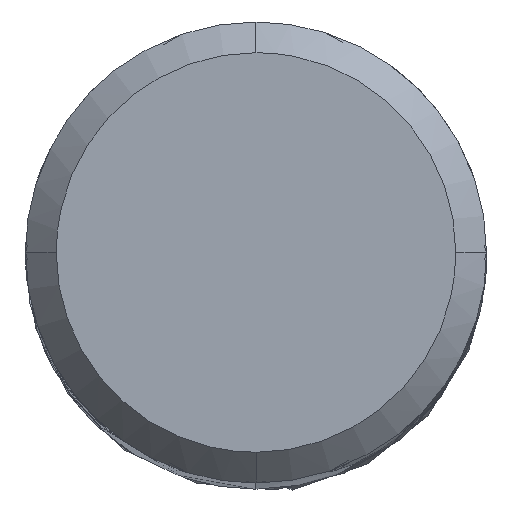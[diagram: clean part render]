
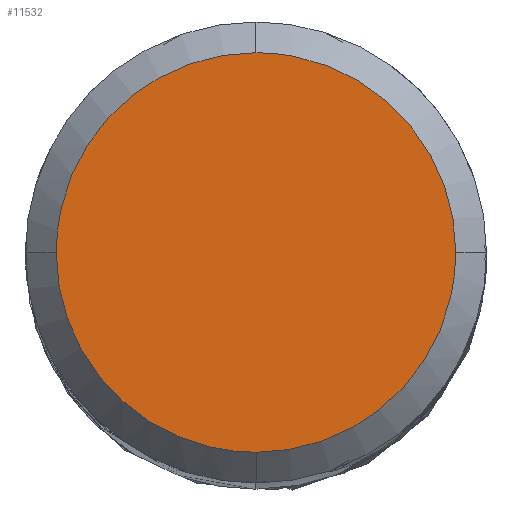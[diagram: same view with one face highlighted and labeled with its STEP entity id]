
A CAD part, top view. The second image highlights one B-rep face of the part: STEP entity #11532.
In plain terms, the highlighted planar face has unit normal (0, 0, 1).
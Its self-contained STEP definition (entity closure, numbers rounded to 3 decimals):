
#11510=AXIS2_PLACEMENT_3D('Plane Axis2P3D',#11507,#11508,#11509) ;
#7309=CARTESIAN_POINT('Vertex',(-1.3,0.,38.)) ;
#7315=CARTESIAN_POINT('Vertex',(0.,-1.3,38.)) ;
#7319=CARTESIAN_POINT('Control Point',(-1.3,0.,38.)) ;
#7320=CARTESIAN_POINT('Control Point',(-1.3,-0.158,38.)) ;
#7321=CARTESIAN_POINT('Control Point',(-1.276,-0.324,38.)) ;
#7322=CARTESIAN_POINT('Control Point',(-1.223,-0.49,38.)) ;
#7323=CARTESIAN_POINT('Control Point',(-1.057,-0.809,38.)) ;
#7324=CARTESIAN_POINT('Control Point',(-0.789,-1.058,38.)) ;
#7325=CARTESIAN_POINT('Control Point',(-0.633,-1.157,38.)) ;
#7326=CARTESIAN_POINT('Control Point',(-0.412,-1.248,38.)) ;
#7327=CARTESIAN_POINT('Control Point',(-0.189,-1.288,38.)) ;
#7328=CARTESIAN_POINT('Control Point',(-0.134,-1.295,38.)) ;
#7329=CARTESIAN_POINT('Control Point',(-0.075,-1.299,38.)) ;
#7330=CARTESIAN_POINT('Control Point',(-0.016,-1.3,38.)) ;
#7331=CARTESIAN_POINT('Control Point',(-0.011,-1.3,38.)) ;
#7332=CARTESIAN_POINT('Control Point',(-0.005,-1.3,38.)) ;
#7333=CARTESIAN_POINT('Control Point',(0.,-1.3,38.)) ;
#11417=CARTESIAN_POINT('Vertex',(0.,1.3,38.)) ;
#11421=CARTESIAN_POINT('Control Point',(0.,1.3,38.)) ;
#11422=CARTESIAN_POINT('Control Point',(-0.158,1.3,38.)) ;
#11423=CARTESIAN_POINT('Control Point',(-0.324,1.276,38.)) ;
#11424=CARTESIAN_POINT('Control Point',(-0.49,1.223,38.)) ;
#11425=CARTESIAN_POINT('Control Point',(-0.809,1.057,38.)) ;
#11426=CARTESIAN_POINT('Control Point',(-1.058,0.789,38.)) ;
#11427=CARTESIAN_POINT('Control Point',(-1.157,0.633,38.)) ;
#11428=CARTESIAN_POINT('Control Point',(-1.248,0.412,38.)) ;
#11429=CARTESIAN_POINT('Control Point',(-1.288,0.189,38.)) ;
#11430=CARTESIAN_POINT('Control Point',(-1.295,0.134,38.)) ;
#11431=CARTESIAN_POINT('Control Point',(-1.299,0.075,38.)) ;
#11432=CARTESIAN_POINT('Control Point',(-1.3,0.016,38.)) ;
#11433=CARTESIAN_POINT('Control Point',(-1.3,0.011,38.)) ;
#11434=CARTESIAN_POINT('Control Point',(-1.3,0.005,38.)) ;
#11435=CARTESIAN_POINT('Control Point',(-1.3,0.,38.)) ;
#11479=CARTESIAN_POINT('Vertex',(1.3,0.,38.)) ;
#11483=CARTESIAN_POINT('Control Point',(0.,-1.3,38.)) ;
#11484=CARTESIAN_POINT('Control Point',(0.158,-1.3,38.)) ;
#11485=CARTESIAN_POINT('Control Point',(0.324,-1.276,38.)) ;
#11486=CARTESIAN_POINT('Control Point',(0.49,-1.223,38.)) ;
#11487=CARTESIAN_POINT('Control Point',(0.809,-1.057,38.)) ;
#11488=CARTESIAN_POINT('Control Point',(1.058,-0.789,38.)) ;
#11489=CARTESIAN_POINT('Control Point',(1.157,-0.633,38.)) ;
#11490=CARTESIAN_POINT('Control Point',(1.248,-0.412,38.)) ;
#11491=CARTESIAN_POINT('Control Point',(1.288,-0.189,38.)) ;
#11492=CARTESIAN_POINT('Control Point',(1.295,-0.134,38.)) ;
#11493=CARTESIAN_POINT('Control Point',(1.299,-0.075,38.)) ;
#11494=CARTESIAN_POINT('Control Point',(1.3,-0.016,38.)) ;
#11495=CARTESIAN_POINT('Control Point',(1.3,-0.011,38.)) ;
#11496=CARTESIAN_POINT('Control Point',(1.3,-0.005,38.)) ;
#11497=CARTESIAN_POINT('Control Point',(1.3,0.,38.)) ;
#11507=CARTESIAN_POINT('Axis2P3D Location',(1.5,0.,38.)) ;
#11513=CARTESIAN_POINT('Control Point',(1.3,0.,38.)) ;
#11514=CARTESIAN_POINT('Control Point',(1.3,0.162,38.)) ;
#11515=CARTESIAN_POINT('Control Point',(1.275,0.328,38.)) ;
#11516=CARTESIAN_POINT('Control Point',(1.222,0.489,38.)) ;
#11517=CARTESIAN_POINT('Control Point',(1.066,0.79,38.)) ;
#11518=CARTESIAN_POINT('Control Point',(0.823,1.027,38.)) ;
#11519=CARTESIAN_POINT('Control Point',(0.683,1.125,38.)) ;
#11520=CARTESIAN_POINT('Control Point',(0.461,1.232,38.)) ;
#11521=CARTESIAN_POINT('Control Point',(0.225,1.284,38.)) ;
#11522=CARTESIAN_POINT('Control Point',(0.149,1.295,38.)) ;
#11523=CARTESIAN_POINT('Control Point',(0.074,1.3,38.)) ;
#11524=CARTESIAN_POINT('Control Point',(0.,1.3,38.)) ;
#11508=DIRECTION('Axis2P3D Direction',(0.,0.,-1.)) ;
#11509=DIRECTION('Axis2P3D XDirection',(-1.,0.,0.)) ;
#11527=ORIENTED_EDGE('',*,*,#11525,.T.) ;
#11528=ORIENTED_EDGE('',*,*,#11436,.T.) ;
#11529=ORIENTED_EDGE('',*,*,#7334,.T.) ;
#11530=ORIENTED_EDGE('',*,*,#11498,.T.) ;
#11532=ADVANCED_FACE('NOCUT',(#11531),#11511,.F.) ;
#7318=B_SPLINE_CURVE_WITH_KNOTS('',5,(#7319,#7320,#7321,#7322,#7323,#7324,#7325,#7326,#7327,#7328,#7329,#7330,#7331,#7332,#7333),.UNSPECIFIED.,.F.,.U.,(6,3,3,3,6),(4.121,5.046,5.997,6.307,6.338),.UNSPECIFIED.) ;
#11420=B_SPLINE_CURVE_WITH_KNOTS('',5,(#11421,#11422,#11423,#11424,#11425,#11426,#11427,#11428,#11429,#11430,#11431,#11432,#11433,#11434,#11435),.UNSPECIFIED.,.F.,.U.,(6,3,3,3,6),(4.121,5.046,5.997,6.307,6.338),.UNSPECIFIED.) ;
#11482=B_SPLINE_CURVE_WITH_KNOTS('',5,(#11483,#11484,#11485,#11486,#11487,#11488,#11489,#11490,#11491,#11492,#11493,#11494,#11495,#11496,#11497),.UNSPECIFIED.,.F.,.U.,(6,3,3,3,6),(4.121,5.046,5.997,6.307,6.338),.UNSPECIFIED.) ;
#11512=B_SPLINE_CURVE_WITH_KNOTS('',5,(#11513,#11514,#11515,#11516,#11517,#11518,#11519,#11520,#11521,#11522,#11523,#11524),.UNSPECIFIED.,.F.,.U.,(6,3,3,6),(0.,1.179,2.359,2.898),.UNSPECIFIED.) ;
#7334=EDGE_CURVE('',#7310,#7316,#7318,.T.) ;
#11436=EDGE_CURVE('',#11418,#7310,#11420,.T.) ;
#11498=EDGE_CURVE('',#7316,#11480,#11482,.T.) ;
#11525=EDGE_CURVE('',#11480,#11418,#11512,.T.) ;
#11526=EDGE_LOOP('',(#11527,#11528,#11529,#11530)) ;
#11531=FACE_OUTER_BOUND('',#11526,.T.) ;
#11511=PLANE('',#11510) ;
#7310=VERTEX_POINT('',#7309) ;
#7316=VERTEX_POINT('',#7315) ;
#11418=VERTEX_POINT('',#11417) ;
#11480=VERTEX_POINT('',#11479) ;
